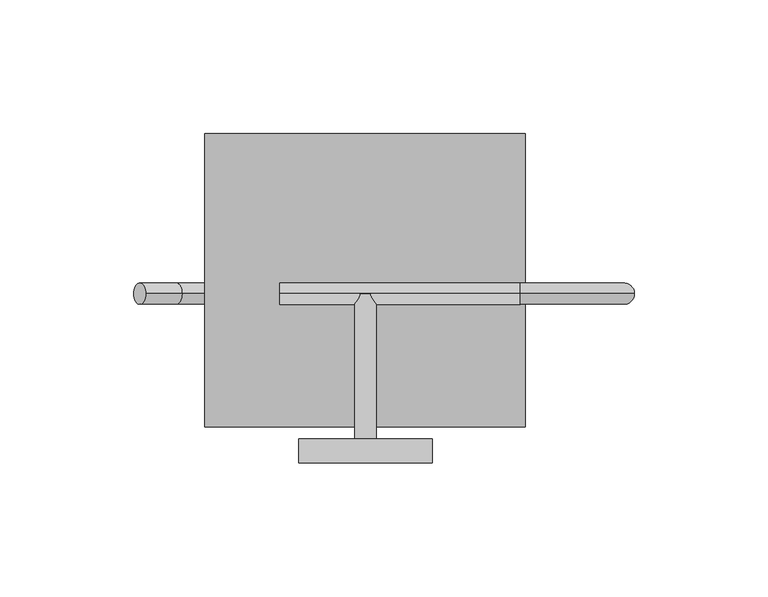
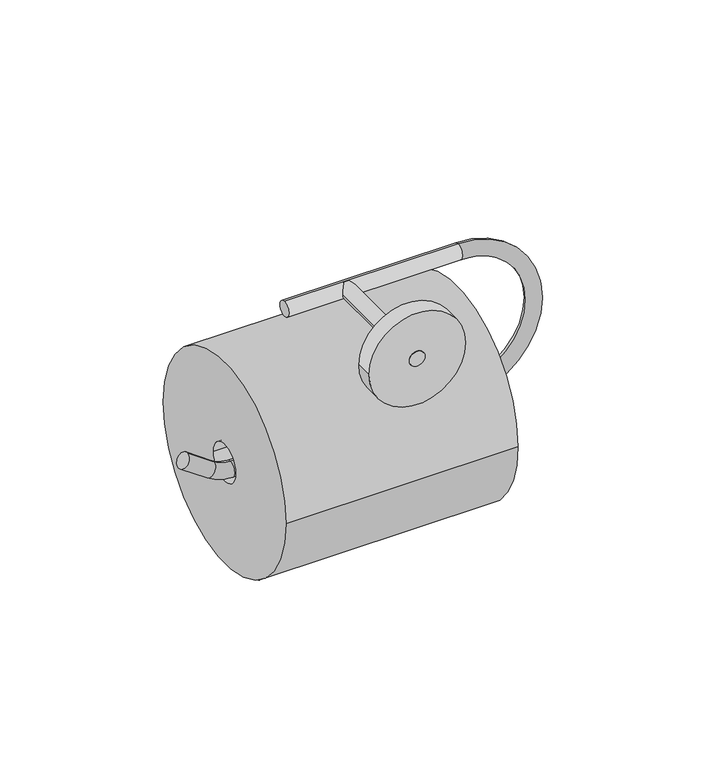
"""IFC4 building model written with IfcOpenShell, lengths in millimetres: flow terminal geometry, Portarrollo Dica 1017 : Portarrollos Dica 1017."""

from ifc_helpers import new_model, si_unit, point, frame, frame_2d, origin, place, context, project, spatial, circle_curve, ellipse_curve, trimmed, segment, composite_curve, outline, extrude, source, transform, mapped, element, save
from ifc_brep_helpers import plane_surface, cylinder_surface, revolved_surface, advanced_brep


def flow_terminal_a64c8540(model_context):
    return source(origin(), model_context, "Body", "SolidModel", [
        extrude(outline(composite_curve([segment(trimmed(circle_curve(frame_2d((138.5, -77.2787162)), 55.0), [point((193.5, -77.2787162))], [point((83.5, -77.2787162))], False, "CARTESIAN"), True, "CONTINUOUS"), segment(trimmed(circle_curve(frame_2d((138.5, -77.2787162)), 55.0), [point((83.5, -77.2787162))], [point((193.5, -77.2787162))], False, "CARTESIAN"), True, "CONTINUOUS")], self_intersect=False), holes=[composite_curve([segment(trimmed(circle_curve(frame_2d((138.5, -77.2787162)), 10.0), [point((148.5, -77.2787162))], [point((128.5, -77.2787162))], True, "CARTESIAN"), True, "CONTINUOUS"), segment(trimmed(circle_curve(frame_2d((138.5, -77.2787162)), 10.0), [point((128.5, -77.2787162))], [point((148.5, -77.2787162))], True, "CARTESIAN"), True, "CONTINUOUS")], self_intersect=False)]), frame((64.9375, 0.0, 0.0), z_axis=(1.0, 0.0, 0.0), x_axis=(0.0, 1.0, 0.0)), (0.0, 0.0, 1.0), 120.0),
        extrude(outline(composite_curve([segment(trimmed(circle_curve(frame_2d((0.0, 125.0)), 4.0), [point((0.0, 121.0))], [point((0.0, 129.0))], False, "CARTESIAN"), True, "CONTINUOUS"), segment(trimmed(circle_curve(frame_2d((0.0, 125.0)), 4.0), [point((0.0, 129.0))], [point((0.0, 121.0))], False, "CARTESIAN"), True, "CONTINUOUS")], self_intersect=False)), frame((0.0, 70.0, 0.0), z_axis=(0.0, 1.0, 0.0), x_axis=(0.0, 0.0, 1.0)), (0.0, 0.0, 1.0), 63.3830496),
        extrude(outline(composite_curve([segment(trimmed(circle_curve(frame_2d((0.0, 125.0)), 25.0), [point((0.0, 100.0))], [point((0.0, 150.0))], False, "CARTESIAN"), True, "CONTINUOUS"), segment(trimmed(circle_curve(frame_2d((0.0, 125.0)), 25.0), [point((0.0, 150.0))], [point((0.0, 100.0))], False, "CARTESIAN"), True, "CONTINUOUS")], self_intersect=False)), frame((0.0, 70.0, 0.0), z_axis=(0.0, 1.0, 0.0), x_axis=(0.0, 0.0, 1.0)), (0.0, 0.0, 1.0), 8.9918697),
        advanced_brep(
        [(38.2124764, 133.5, -67.8712806), (42.8010879, 133.5, -61.3180642), (51.7841808, 133.5, -77.3742904), (56.3727923, 133.5, -70.821074), (64.8692601, 133.5, -73.5), (64.8692601, 133.5, -81.5), (182.9954104, 133.5, -81.5), (182.9954104, 133.5, -73.5), (182.9954104, 133.5, -4.0), (182.9954104, 133.5, 4.0), (92.9954104, 133.5, 4.0), (92.9954104, 133.5, -4.0)],
        [
            (0, 1, circle_curve(frame((40.5067821, 133.5, -64.5946724), z_axis=(-0.8191520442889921, 0.0, 0.5735764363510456), x_axis=(0.5735764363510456, 0.0, 0.8191520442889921)), 4.0)),
            (1, 0, circle_curve(frame((40.5067821, 133.5, -64.5946724), z_axis=(-0.8191520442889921, 0.0, 0.5735764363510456), x_axis=(0.5735764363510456, 0.0, 0.8191520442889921)), 4.0)),
            (0, 2),
            (2, 3, circle_curve(frame((54.0784866, 133.5, -74.0976822), z_axis=(-0.8191520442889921, 0.0, 0.5735764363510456), x_axis=(0.5735764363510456, 0.0, 0.8191520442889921)), 4.0)),
            (3, 1),
            (3, 2, circle_curve(frame((54.0784866, 133.5, -74.0976822), z_axis=(-0.8191520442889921, 0.0, 0.5735764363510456), x_axis=(0.5735764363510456, 0.0, 0.8191520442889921)), 4.0)),
            (4, 3, circle_curve(frame((64.8692601, 133.5, -58.6868605), z_axis=(0.0, 1.0, 0.0), x_axis=(-0.5735764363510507, 0.0, -0.8191520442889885)), 14.8131395)),
            (2, 5, circle_curve(frame((64.8692601, 133.5, -58.6868605), z_axis=(0.0, -1.0, 0.0), x_axis=(-0.5735764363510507, 0.0, -0.8191520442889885)), 22.8131395)),
            (5, 4, circle_curve(frame((64.8692601, 133.5, -77.5), z_axis=(-0.9999999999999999, 0.0, 0.0), x_axis=(0.0, 0.0, 0.9999999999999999)), 4.0)),
            (4, 5, circle_curve(frame((64.8692601, 133.5, -77.5), z_axis=(-0.9999999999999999, 0.0, 0.0), x_axis=(0.0, 0.0, 0.9999999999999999)), 4.0)),
            (5, 6),
            (6, 7, circle_curve(frame((182.9954104, 133.5, -77.5), z_axis=(-1.0, 0.0, 0.0), x_axis=(0.0, 0.0, 1.0)), 4.0)),
            (7, 4),
            (7, 6, circle_curve(frame((182.9954104, 133.5, -77.5), z_axis=(-1.0, 0.0, 0.0), x_axis=(0.0, 0.0, 1.0)), 4.0)),
            (8, 7, circle_curve(frame((182.9954104, 133.5, -38.75), z_axis=(0.0, 1.0, 0.0), x_axis=(0.0, 0.0, -1.0)), 34.75)),
            (6, 9, circle_curve(frame((182.9954104, 133.5, -38.75), z_axis=(0.0, -1.0, 0.0), x_axis=(0.0, 0.0, -1.0)), 42.75)),
            (9, 8, circle_curve(frame((182.9954104, 133.5, 0.0), z_axis=(1.0, 0.0, 0.0), x_axis=(0.0, 0.0, -1.0)), 4.0)),
            (8, 9, circle_curve(frame((182.9954104, 133.5, 0.0), z_axis=(1.0, 0.0, 0.0), x_axis=(0.0, 0.0, -1.0)), 4.0)),
            (10, 11, circle_curve(frame((92.9954104, 133.5, 0.0), z_axis=(-1.0, 0.0, 0.0), x_axis=(0.0, 0.0, -1.0)), 4.0)),
            (11, 10, circle_curve(frame((92.9954104, 133.5, 0.0), z_axis=(-1.0, 0.0, 0.0), x_axis=(0.0, 0.0, -1.0)), 4.0)),
            (9, 10),
            (11, 8),
        ],
        [
            plane_surface(frame((40.5067821, 70.0, -64.5946724), z_axis=(-0.8191520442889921, 0.0, 0.5735764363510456), x_axis=(0.0, -1.0, 0.0))),
            cylinder_surface(frame((40.5067821, 133.5, -64.5946724), z_axis=(-0.8191520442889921, 0.0, 0.5735764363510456), x_axis=(0.5735764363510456, 0.0, 0.8191520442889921)), 4.0),
            revolved_surface(trimmed(ellipse_curve(frame((54.0784866, 133.5, -74.0976822), z_axis=(-0.8191520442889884, 0.0, 0.5735764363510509), x_axis=(0.5735764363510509, 0.0, 0.8191520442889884)), 4.0, 4.0), [point((51.7841808, 133.5, -77.3742904))], [point((56.3727923, 133.5, -70.821074))], True, "CARTESIAN"), (64.8692601, 70.0, -58.6868605), (0.0, -1.0, 0.0)),
            revolved_surface(trimmed(ellipse_curve(frame((54.0784866, 133.5, -74.0976822), z_axis=(-0.8191520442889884, 0.0, 0.5735764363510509), x_axis=(0.5735764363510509, 0.0, 0.8191520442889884)), 4.0, 4.0), [point((56.3727923, 133.5, -70.821074))], [point((51.7841808, 133.5, -77.3742904))], True, "CARTESIAN"), (64.8692601, 70.0, -58.6868605), (0.0, -1.0, 0.0)),
            cylinder_surface(frame((64.8692601, 133.5, -77.5), z_axis=(-1.0, 0.0, 0.0), x_axis=(0.0, 0.0, 1.0)), 4.0),
            revolved_surface(trimmed(ellipse_curve(frame((182.9954104, 133.5, -77.5), z_axis=(-1.0, 0.0, 0.0), x_axis=(0.0, 0.0, 1.0)), 4.0, 4.0), [point((182.9954104, 133.5, -81.5))], [point((182.9954104, 133.5, -73.5))], True, "CARTESIAN"), (182.9954104, 70.0, -38.75), (0.0, -1.0, 0.0)),
            revolved_surface(trimmed(ellipse_curve(frame((182.9954104, 133.5, -77.5), z_axis=(-1.0, 0.0, 0.0), x_axis=(0.0, 0.0, 1.0)), 4.0, 4.0), [point((182.9954104, 133.5, -73.5))], [point((182.9954104, 133.5, -81.5))], True, "CARTESIAN"), (182.9954104, 70.0, -38.75), (0.0, -1.0, 0.0)),
            plane_surface(frame((92.9954104, 70.0, 0.0), z_axis=(-1.0, 0.0, 0.0), x_axis=(0.0, -1.0, 0.0))),
            cylinder_surface(frame((182.9954104, 133.5, 0.0), z_axis=(1.0, 0.0, 0.0), x_axis=(0.0, 0.0, -1.0)), 4.0),
        ],
        [
            (0, [[1, 2]]),
            (1, [[-1, 3, 4, 5]]),
            (1, [[-2, -5, 6, -3]]),
            (2, [[7, -4, 8, 9]]),
            (3, [[-8, -6, -7, 10]]),
            (4, [[-9, 11, 12, 13]]),
            (4, [[-10, -13, 14, -11]]),
            (5, [[15, -12, 16, 17]]),
            (6, [[-16, -14, -15, 18]]),
            (7, [[19, 20]]),
            (8, [[-17, 21, -20, 22]]),
            (8, [[-18, -22, -19, -21]]),
        ],
    ),
    ])


if __name__ == "__main__":
    model = new_model("IFC4")
    model_context = context("Model", 3, world=origin())
    ifc_project = project(units=[si_unit("LENGTHUNIT", "METRE", prefix="MILLI")], contexts=[model_context])
    site = spatial("IfcSite", under=ifc_project)
    building = spatial("IfcBuilding", under=site)
    placement = place(None, origin())
    flow_terminal_shape = flow_terminal_a64c8540(model_context)
    element("IfcFlowTerminal", 1, ObjectType="Portarrollo Dica 1017 : Portarrollos Dica 1017", at=placement, inside=building, context=model_context, shape_type="MappedRepresentation", body=[
        mapped(flow_terminal_shape, transform((0.0, 0.0, 0.0), x_axis=(1.0, 0.0, 0.0), y_axis=(0.0, 1.0, 0.0), z_axis=(0.0, 0.0, 1.0))),
    ])
    save(model, "model.ifc")
